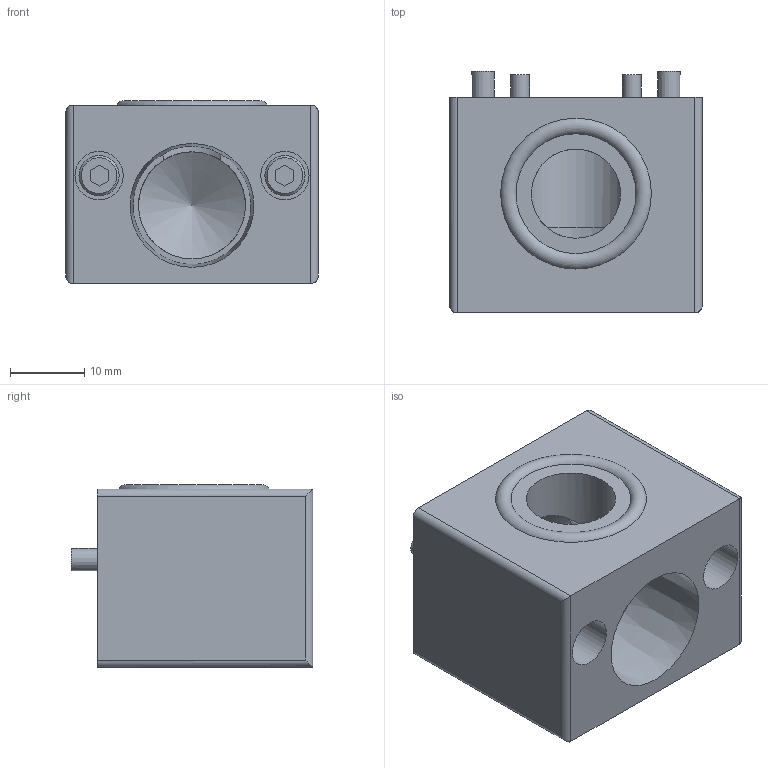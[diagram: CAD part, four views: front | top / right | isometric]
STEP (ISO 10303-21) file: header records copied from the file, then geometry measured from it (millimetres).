
FILE_DESCRIPTION(('STEP AP214'),'1');
FILE_NAME('KHF-12HS-EP101_ver1.stp','2026-04-27T03:50:15',(' '),(' '),'Spatial InterOp 3D',' ',' ');
FILE_SCHEMA(('AUTOMOTIVE_DESIGN { 1 0 10303 214 1 1 1 1 }'));
Length unit declared in the file: millimetre
Products named in the file (1): KHF-12HS-EP101_ver1
Bounding box: 34 x 32.5 x 24.6 mm (x, y, z)
Volume: 18084.3 mm3; surface area: 7510.7 mm2
Topology: 1 solids, 3 shells, 63 faces, 129 edges, 84 vertices
Faces by surface type: plane 36, cylinder 20, cone 6, torus 1
Full cylindrical faces by diameter (mm): 2.5 x4, 3 x2, 3.5 x2, 5.41 x2, 6.5 x2, 12 x1, 14.4 x1
Entity records: 2073 total; most frequent: CARTESIAN_POINT 306, DIRECTION 270, ORIENTED_EDGE 202, AXIS2_PLACEMENT_3D 107, EDGE_CURVE 101, EDGE_LOOP 98, FACE_OUTER_BOUND 78, VERTEX_POINT 78
